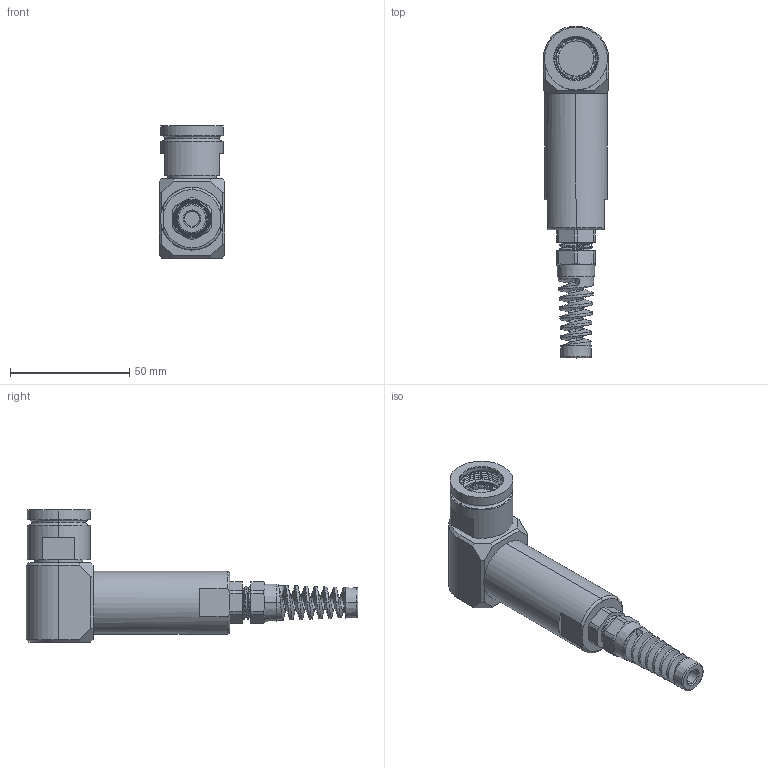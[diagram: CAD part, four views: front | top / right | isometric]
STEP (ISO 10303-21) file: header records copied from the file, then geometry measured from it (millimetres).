
FILE_DESCRIPTION (( 'STEP AP214' ), '1' );
FILE_NAME ('Q38EBSHELL-90X-13-XXXX-GB.STEP', '2025-09-22T15:02:59', ( '' ), ( '' ), 'SwSTEP 2.0', 'SolidWorks 2024', '' );
FILE_SCHEMA (( 'AUTOMOTIVE_DESIGN' ));
Length unit declared in the file: millimetre
Products named in the file (1): Q38EBSHELL-90X-13-XXXX-GB
Bounding box: 27.43 x 139.37 x 55.45 mm (x, y, z)
Volume: 67870.7 mm3; surface area: 18055.1 mm2
Topology: 2 solids, 4 shells, 294 faces, 899 edges, 630 vertices
Faces by surface type: plane 141, cylinder 81, cone 46, torus 13, bspline 13
Entity records: 15582 total; most frequent: CARTESIAN_POINT 8071, ORIENTED_EDGE 1798, DIRECTION 1333, EDGE_CURVE 899, VERTEX_POINT 630, AXIS2_PLACEMENT_3D 529, EDGE_LOOP 315, FACE_OUTER_BOUND 294
